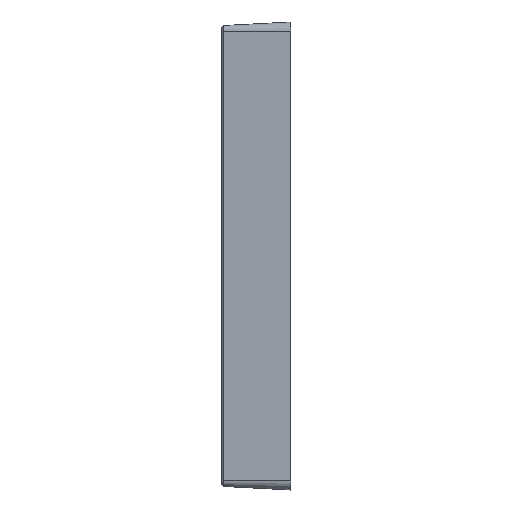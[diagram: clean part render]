
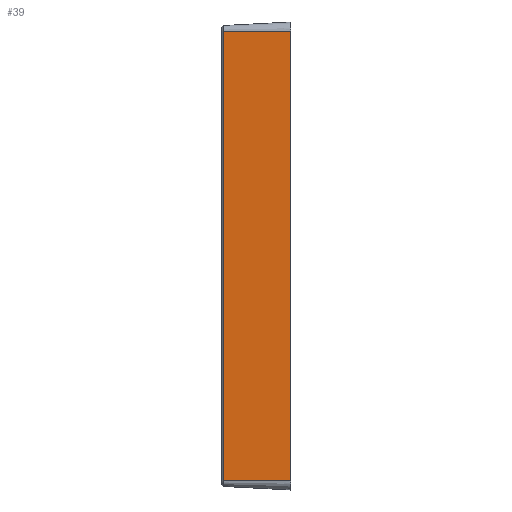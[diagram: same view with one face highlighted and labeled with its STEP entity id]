
A CAD part, left-side view. The second image highlights one B-rep face of the part: STEP entity #39.
In plain terms, the highlighted planar face has unit normal (-0.999, 0.052, 0).
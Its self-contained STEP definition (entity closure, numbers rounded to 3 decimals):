
#37 = EDGE_CURVE ( 'NONE', #38, #59, #1058, .T. ) ;
#38 = VERTEX_POINT ( 'NONE', #1054 ) ;
#39 = ADVANCED_FACE ( 'NONE', ( #1053 ), #1052, .T. ) ;
#40 = ORIENTED_EDGE ( 'NONE', *, *, #41, .F. ) ;
#41 = EDGE_CURVE ( 'NONE', #42, #43, #1047, .T. ) ;
#42 = VERTEX_POINT ( 'NONE', #1043 ) ;
#43 = VERTEX_POINT ( 'NONE', #1042 ) ;
#59 = VERTEX_POINT ( 'NONE', #1097 ) ;
#68 = EDGE_LOOP ( 'NONE', ( #40, #90, #92, #93 ) ) ;
#90 = ORIENTED_EDGE ( 'NONE', *, *, #91, .T. ) ;
#91 = EDGE_CURVE ( 'NONE', #42, #38, #1012, .T. ) ;
#92 = ORIENTED_EDGE ( 'NONE', *, *, #37, .T. ) ;
#93 = ORIENTED_EDGE ( 'NONE', *, *, #94, .T. ) ;
#94 = EDGE_CURVE ( 'NONE', #59, #43, #1008, .T. ) ;
#1005 = DIRECTION ( 'NONE',  ( 0., 0., 1. ) ) ;
#1006 = VECTOR ( 'NONE', #1005, 1000. ) ;
#1007 = CARTESIAN_POINT ( 'NONE',  ( -90., 0., -86.5 ) ) ;
#1008 = LINE ( 'NONE', #1007, #1006 ) ;
#1009 = DIRECTION ( 'NONE',  ( 0., 0., -1. ) ) ;
#1010 = VECTOR ( 'NONE', #1009, 1000. ) ;
#1011 = CARTESIAN_POINT ( 'NONE',  ( -88.639, 25.967, -86.5 ) ) ;
#1012 = LINE ( 'NONE', #1011, #1010 ) ;
#1042 = CARTESIAN_POINT ( 'NONE',  ( -90., 0., 86.5 ) ) ;
#1043 = CARTESIAN_POINT ( 'NONE',  ( -88.639, 25.967, 86.5 ) ) ;
#1044 = DIRECTION ( 'NONE',  ( -0.052, -0.999, 0. ) ) ;
#1045 = VECTOR ( 'NONE', #1044, 1000. ) ;
#1046 = CARTESIAN_POINT ( 'NONE',  ( -90., 0., 86.5 ) ) ;
#1047 = LINE ( 'NONE', #1046, #1045 ) ;
#1048 = DIRECTION ( 'NONE',  ( -0.052, -0.999, 0. ) ) ;
#1049 = DIRECTION ( 'NONE',  ( -0.999, 0.052, 0. ) ) ;
#1050 = CARTESIAN_POINT ( 'NONE',  ( -90., 0., -86.5 ) ) ;
#1051 = AXIS2_PLACEMENT_3D ( 'NONE', #1050, #1049, #1048 ) ;
#1052 = PLANE ( 'NONE',  #1051 ) ;
#1053 = FACE_OUTER_BOUND ( 'NONE', #68, .T. ) ;
#1054 = CARTESIAN_POINT ( 'NONE',  ( -88.639, 25.967, -86.5 ) ) ;
#1055 = DIRECTION ( 'NONE',  ( -0.052, -0.999, 0. ) ) ;
#1056 = VECTOR ( 'NONE', #1055, 1000. ) ;
#1057 = CARTESIAN_POINT ( 'NONE',  ( -90., 0., -86.5 ) ) ;
#1058 = LINE ( 'NONE', #1057, #1056 ) ;
#1097 = CARTESIAN_POINT ( 'NONE',  ( -90., 0., -86.5 ) ) ;
